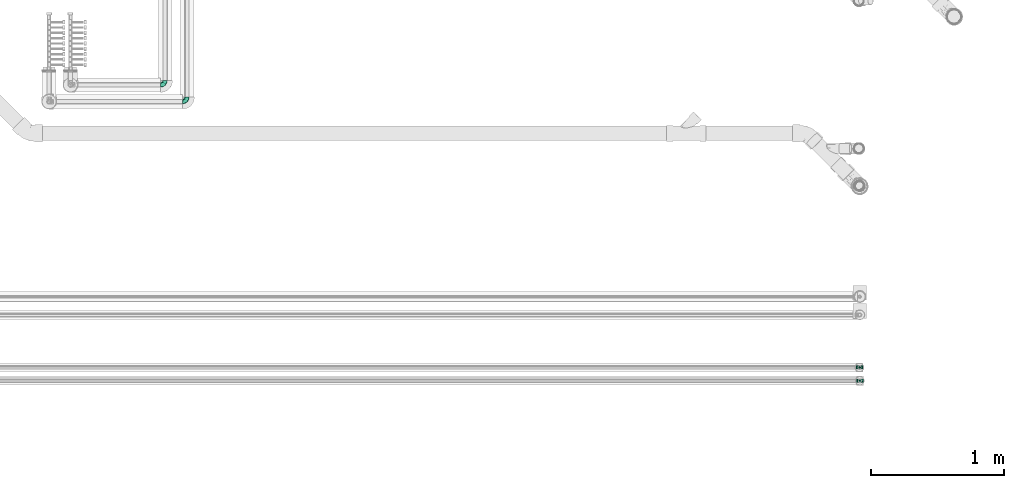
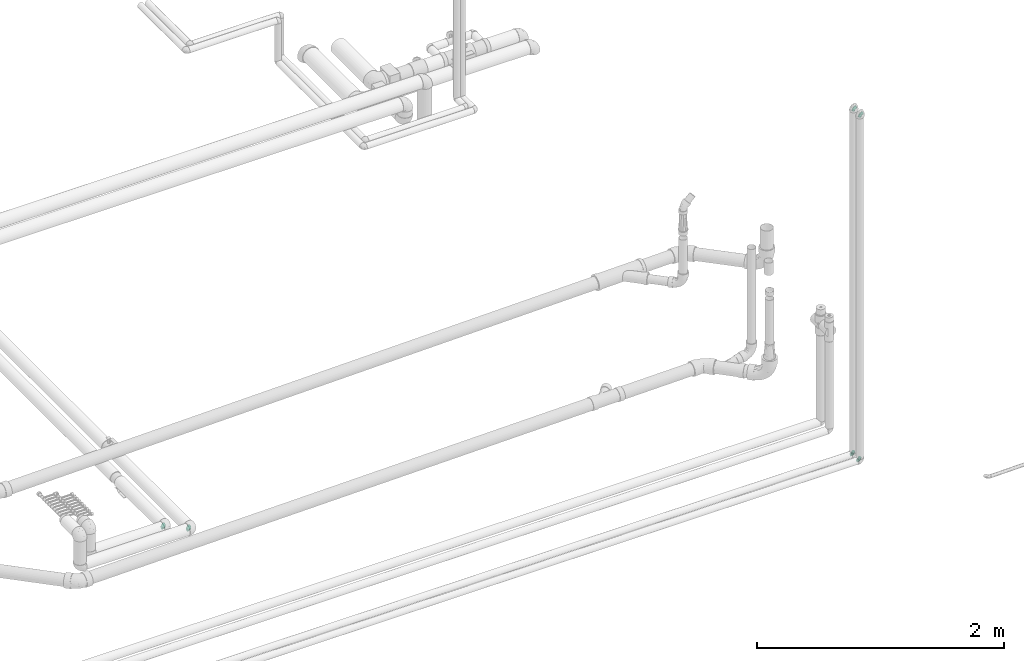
# One storey, part 45 of 83: 6 flow fittings.
"""IFC2X3 building model written with IfcOpenShell, lengths in millimetres."""

import ifcopenshell
import ifcopenshell.guid

model = None  # the IFC model being written
_history = None  # IfcOwnerHistory: only IFC2X3 demands one
_inside = {}  # id of a spatial element -> (the spatial element, [elements in it])
_under = {}  # id of a project, library or spatial element -> (it, [spatial elements below it])
_declared = {}  # id of a project -> (the project, [libraries it declares])
_typed = {}  # id of a type object -> (the type object, [elements of that type])
_made_of = {}  # id of a material, layer set ... -> (it, [elements and type objects made of it])


def new_model(schema):
    """Start an empty IFC model of exactly this schema.

    Asked for "IFC4X3", IfcOpenShell would pick the latest addendum, in which some entities
    have other attributes; the version numbers below select the first issue.
    IFC2X3 requires an IfcOwnerHistory on every rooted entity: one is made here for all.
    """
    global model, _history
    if schema == "IFC4X3":
        model = ifcopenshell.file(schema_version=(4, 3, 0, 0))
    else:
        model = ifcopenshell.file(schema=schema)
    _inside.clear()
    _under.clear()
    _declared.clear()
    _typed.clear()
    _made_of.clear()
    _history = None
    if model.schema == "IFC2X3":
        org = make("IfcOrganization", Name="unknown")
        user = make(
            "IfcPersonAndOrganization",
            ThePerson=make("IfcPerson", FamilyName="unknown"),
            TheOrganization=org,
        )
        app = make(
            "IfcApplication",
            ApplicationDeveloper=org,
            Version="unknown",
            ApplicationFullName="unknown",
            ApplicationIdentifier="unknown",
        )
        _history = make(
            "IfcOwnerHistory",
            OwningUser=user,
            OwningApplication=app,
            ChangeAction="ADDED",
            CreationDate=0,
        )
    return model


def make(cls, **values):
    """One entity of the class cls with the attributes given. An attribute that is None is left unset."""
    return model.create_entity(
        cls, **{name: value for name, value in values.items() if value is not None}
    )


def entity(cls, *values):
    """Any entity or typed value of the class cls, its attributes in the order of the schema. None: left unset."""
    e = model.create_entity(cls)
    for i, value in enumerate(values):
        if value is not None:
            e[i] = value
    return e


def rooted(cls, **values):
    """An entity with a GlobalId (a new one), such as an element, a storey or a relation."""
    return make(cls, GlobalId=ifcopenshell.guid.new(), OwnerHistory=_history, **values)


def si_unit(unit_type, name, prefix=None):
    """IfcSIUnit, for example si_unit("LENGTHUNIT", "METRE", prefix="MILLI")."""
    return make("IfcSIUnit", UnitType=unit_type, Prefix=prefix, Name=name)


def converted_unit(unit_type, name, factor, base, dimensions=None, offset=None):
    """IfcConversionBasedUnit, such as the inch: factor (a typed value) times the base unit."""
    return make(
        "IfcConversionBasedUnit"
        if offset is None
        else "IfcConversionBasedUnitWithOffset",
        ConversionOffset=offset,
        Dimensions=None
        if dimensions is None
        else entity("IfcDimensionalExponents", *dimensions),
        UnitType=unit_type,
        Name=name,
        ConversionFactor=make(
            "IfcMeasureWithUnit", ValueComponent=factor, UnitComponent=base
        ),
    )


def derived_unit(unit_type, elements):
    """IfcDerivedUnit: a product of units, each with its exponent."""
    return make(
        "IfcDerivedUnit",
        Elements=[
            make("IfcDerivedUnitElement", Unit=unit, Exponent=power)
            for unit, power in elements
        ],
        UnitType=unit_type,
    )


def assignment(units):
    """IfcUnitAssignment: the units of a project."""
    return None if units is None else make("IfcUnitAssignment", Units=units)


def point(xyz):
    """IfcCartesianPoint."""
    return None if xyz is None else make("IfcCartesianPoint", Coordinates=xyz)


def direction(xyz):
    """IfcDirection."""
    return None if xyz is None else make("IfcDirection", DirectionRatios=xyz)


def frame(location, z_axis=None, x_axis=None):
    """IfcAxis2Placement3D, a coordinate frame: its origin and axes. An axis left out is left unset."""
    return make(
        "IfcAxis2Placement3D",
        Location=point(location),
        Axis=direction(z_axis),
        RefDirection=direction(x_axis),
    )


def origin_with_axes():
    """The frame at (0, 0, 0) with the z axis (0, 0, 1) and the x axis (1, 0, 0) written out."""
    return frame((0.0, 0.0, 0.0), z_axis=(0.0, 0.0, 1.0), x_axis=(1.0, 0.0, 0.0))


def place(relative_to, where):
    """IfcLocalPlacement: puts the frame where relative to a parent placement (None: the world)."""
    return make(
        "IfcLocalPlacement", PlacementRelTo=relative_to, RelativePlacement=where
    )


def context(
    kind, dimensions, precision=None, world=None, true_north=None, identifier=None
):
    """IfcGeometricRepresentationContext, for example the 3D "Model" context."""
    return make(
        "IfcGeometricRepresentationContext",
        ContextIdentifier=identifier,
        ContextType=kind,
        CoordinateSpaceDimension=dimensions,
        Precision=precision,
        WorldCoordinateSystem=world,
        TrueNorth=true_north,
    )


def subcontext(parent, identifier, kind, view, scale=None):
    """IfcGeometricRepresentationSubContext, for example "Body" below "Model"."""
    return make(
        "IfcGeometricRepresentationSubContext",
        ContextIdentifier=identifier,
        ContextType=kind,
        ParentContext=parent,
        TargetScale=scale,
        TargetView=view,
    )


def project(units=None, contexts=None):
    """IfcProject with its units and contexts."""
    return rooted(
        "IfcProject",
        Name="project",
        RepresentationContexts=contexts,
        UnitsInContext=assignment(units),
    )


def spatial(cls, under=None, at=None, **own):
    """A site, building, storey or space (cls), placed at a placement, below another one or the project."""
    s = rooted(cls, ObjectPlacement=at, **own)
    if under is not None:
        _under.setdefault(under.id(), (under, []))[1].append(s)
    return s


def faces_of(points, faces, orient=None, outer=None):
    """IfcFace entities. A face is a list of loops; a loop is a list of indices into points, from 0.

    orient and outer hold one flag for each loop. By default every Orientation is true, the
    first loop of a face is its IfcFaceOuterBound and the others are IfcFaceBound.
    """
    made = []
    for i, loops in enumerate(faces):
        bounds = []
        for j, loop in enumerate(loops):
            is_outer = j == 0 if outer is None else outer[i][j]
            bounds.append(
                make(
                    "IfcFaceOuterBound" if is_outer else "IfcFaceBound",
                    Bound=make("IfcPolyLoop", Polygon=[points[k] for k in loop]),
                    Orientation=True if orient is None else orient[i][j],
                )
            )
        made.append(make("IfcFace", Bounds=bounds))
    return made


def open_shell(faces, orient=None, outer=None):
    """The faces of one IfcOpenShell. surface_model builds it on its shared points."""
    return ("IfcOpenShell", faces, orient, outer)


def surface_model(cls, points, shells):
    """IfcFaceBasedSurfaceModel or IfcShellBasedSurfaceModel (cls): surfaces that need not close."""
    shared = [point(p) for p in points]
    made = [make(c, CfsFaces=faces_of(shared, fs, o, b)) for c, fs, o, b in shells]
    if cls == "IfcFaceBasedSurfaceModel":
        return make(cls, FbsmFaces=made)
    return make(cls, SbsmBoundary=made)


def shape(context_of_items, identifier, shape_type, items):
    """IfcShapeRepresentation: the items that make up one representation, for example the "Body"."""
    return make(
        "IfcShapeRepresentation",
        ContextOfItems=context_of_items,
        RepresentationIdentifier=identifier,
        RepresentationType=shape_type,
        Items=items,
    )


def source(mapping_origin, context_of_items, identifier, shape_type, items):
    """IfcRepresentationMap: a shape defined once, which mapped items show again and again."""
    return make(
        "IfcRepresentationMap",
        MappingOrigin=mapping_origin,
        MappedRepresentation=shape(context_of_items, identifier, shape_type, items),
    )


def transform(
    local_origin,
    x_axis=None,
    y_axis=None,
    z_axis=None,
    scale=None,
    scale2=None,
    scale3=None,
    uniform=True,
):
    """IfcCartesianTransformationOperator3D, or its non-uniform kind. x_axis, y_axis, z_axis: its Axis1, 2, 3."""
    if uniform:
        return make(
            "IfcCartesianTransformationOperator3D",
            Axis1=direction(x_axis),
            Axis2=direction(y_axis),
            LocalOrigin=point(local_origin),
            Scale=scale,
            Axis3=direction(z_axis),
        )
    return make(
        "IfcCartesianTransformationOperator3DnonUniform",
        Axis1=direction(x_axis),
        Axis2=direction(y_axis),
        LocalOrigin=point(local_origin),
        Scale=scale,
        Axis3=direction(z_axis),
        Scale2=scale2,
        Scale3=scale3,
    )


def mapped(mapping_source, mapping_target):
    """IfcMappedItem: shows the shape of a source again, moved by a transform."""
    return make(
        "IfcMappedItem", MappingSource=mapping_source, MappingTarget=mapping_target
    )


def made_of(thing, what):
    """Note that an element or type object is made of a material, layer set ...; save() writes the relation."""
    if what is not None:
        _made_of.setdefault(what.id(), (what, []))[1].append(thing)
    return thing


def type_object(cls, material=None, **own):
    """A type object (cls), such as IfcWallType, which elements share."""
    return made_of(rooted(cls, **own), material)


def element(
    cls,
    number,
    at=None,
    inside=None,
    cuts=None,
    type_object=None,
    material=None,
    context=None,
    identifier="Body",
    shape_type=None,
    held_by="IfcProductDefinitionShape",
    body=None,
    shapes=None,
    **own,
):
    """One element of the class cls, such as IfcWall. Its Tag is "e" and its number.

    at: its placement. inside: the storey or other place that contains it. cuts: it is an
    opening in that element (IfcRelVoidsElement). A single representation is given by context,
    identifier, shape_type and body (its items); several are given by shapes. held_by: the class
    of the entity that holds the representations. save() writes the other relations.
    """
    e = rooted(cls, Tag="e%d" % number, ObjectPlacement=at, **own)
    if body is not None:
        shapes = [shape(context, identifier, shape_type, body)]
    if shapes is not None:
        e.Representation = make(held_by, Representations=shapes)
    if inside is not None:
        _inside.setdefault(inside.id(), (inside, []))[1].append(e)
    if cuts is not None:
        rooted(
            "IfcRelVoidsElement", RelatingBuildingElement=cuts, RelatedOpeningElement=e
        )
    if type_object is not None:
        _typed.setdefault(type_object.id(), (type_object, []))[1].append(e)
    return made_of(e, material)


def aggregate(whole, parts):
    """IfcRelAggregates: a whole, such as a stair, and the parts it consists of."""
    return rooted("IfcRelAggregates", RelatingObject=whole, RelatedObjects=parts)


def save(model, path):
    """Write the relations noted so far, then the file.

    IfcRelAggregates (storeys below a building ...), IfcRelContainedInSpatialStructure (elements
    in a storey), IfcRelDefinesByType, IfcRelAssociatesMaterial and IfcRelDeclares: one each for
    every whole, place, type object, material and project.
    """
    for whole, parts in _under.values():
        aggregate(whole, parts)
    for where, things in _inside.values():
        rooted(
            "IfcRelContainedInSpatialStructure",
            RelatedElements=things,
            RelatingStructure=where,
        )
    for kind, things in _typed.values():
        rooted("IfcRelDefinesByType", RelatedObjects=things, RelatingType=kind)
    for what, things in _made_of.values():
        rooted("IfcRelAssociatesMaterial", RelatedObjects=things, RelatingMaterial=what)
    for by, libraries in _declared.values():
        rooted("IfcRelDeclares", RelatingContext=by, RelatedDefinitions=libraries)
    model.write(path)


model = new_model("IFC2X3")

# Units and contexts
model_context = context("Model", 3, precision=0.01, world=frame((0.0, 4.29681676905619e-09, 0.0)), true_north=direction((4.01073788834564e-13, 1.0)))
plan_context = context("Plan", 3, precision=0.01, world=frame((0.0, 4.29681676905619e-09, 0.0)), true_north=direction((4.01073788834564e-13, 1.0)))
body_context = subcontext(model_context, "Body", "Model", "MODEL_VIEW")
ifc_project = project(units=[converted_unit("PLANEANGLEUNIT", "DEGREE", entity("IfcPositiveLengthMeasure", 0.0174532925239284), si_unit("PLANEANGLEUNIT", "RADIAN"), dimensions=[0, 0, 0, 0, 0, 0, 0]), si_unit("AREAUNIT", "SQUARE_METRE"), si_unit("LENGTHUNIT", "METRE", prefix="MILLI"), si_unit("MASSUNIT", "GRAM", prefix="KILO"), si_unit("POWERUNIT", "WATT"), si_unit("PRESSUREUNIT", "PASCAL"), si_unit("FORCEUNIT", "NEWTON", prefix="KILO"), si_unit("ELECTRICVOLTAGEUNIT", "VOLT"), si_unit("ELECTRICCURRENTUNIT", "AMPERE"), si_unit("THERMODYNAMICTEMPERATUREUNIT", "DEGREE_CELSIUS"), si_unit("TIMEUNIT", "SECOND"), si_unit("VOLUMEUNIT", "CUBIC_METRE"), derived_unit("LINEARVELOCITYUNIT", [(si_unit("LENGTHUNIT", "METRE"), 1), (si_unit("TIMEUNIT", "SECOND"), -1)]), derived_unit("VOLUMETRICFLOWRATEUNIT", [(si_unit("VOLUMEUNIT", "CUBIC_METRE"), 1), (si_unit("TIMEUNIT", "SECOND"), -1)]), derived_unit("THERMALTRANSMITTANCEUNIT", [(si_unit("POWERUNIT", "WATT"), 1), (si_unit("THERMODYNAMICTEMPERATUREUNIT", "KELVIN"), -1), (si_unit("AREAUNIT", "SQUARE_METRE"), -1)]), derived_unit("SOUNDPRESSUREUNIT", [(si_unit("PRESSUREUNIT", "PASCAL"), 1)])], contexts=[model_context, plan_context])

# Site, building, storey
site_placement = place(None, frame((0.0, -4.29681676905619e-09, 0.0), z_axis=(0.0, 0.0, 1.0), x_axis=(1.0, 0.0, 0.0)))
site = spatial("IfcSite", under=ifc_project, at=site_placement, Name="ENGM", CompositionType="ELEMENT")
building_placement = place(site_placement, frame((0.0, 4.29681676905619e-09, 0.0), z_axis=(0.0, 0.0, 1.0), x_axis=(1.0, 0.0, 0.0)))
building = spatial("IfcBuilding", under=site, at=building_placement, Name="TI", CompositionType="ELEMENT")
storey_placement = place(building_placement, frame((0.0, 0.0, 204000.0), z_axis=(0.0, 0.0, 1.0), x_axis=(1.0, 0.0, 0.0)))
storey = spatial("IfcBuildingStorey", under=building, at=storey_placement, Name="Nivå D", CompositionType="ELEMENT", Elevation=204000.0)

# Flow fittings
pipe_fitting_type = type_object("IfcPipeFittingType", Name="magi_pipe_fe_elbow_short_001", PredefinedType="BEND")
shared_shape_1 = source(origin_with_axes(), body_context, "Body", "SurfaceModel", [
    surface_model("IfcShellBasedSurfaceModel", [(-33.8, 4.37404, -16.32415), (-33.8, 0.0, -16.9), (-33.8, 11.9501, -11.9501), (-33.8, 8.45, -14.63583), (-33.8, 16.32415, -4.37404), (-33.8, 14.63583, -8.45), (-33.8, -14.63583, -8.45), (-33.8, -16.32415, -4.37404), (-33.8, -8.45, 14.63583), (-33.8, -11.9501, -11.9501), (-33.8, -8.45, -14.63583), (-33.8, -4.37404, -16.32415), (-33.8, -16.9, 0.0), (-33.8, -16.32415, 4.37404), (-33.8, 11.9501, 11.9501), (-33.8, 14.63583, 8.45), (-33.8, 16.32415, 4.37404), (-33.8, 4.37404, 16.32415), (-33.8, 8.45, 14.63583), (-33.8, -14.63583, 8.45), (-33.8, -11.9501, 11.9501), (-33.8, -4.37404, 16.32415), (-33.8, 0.0, 16.9), (-33.8, 16.9, 0.0), (-11.9501, 33.8, -11.9501), (0.0, 33.8, -16.9), (-4.37404, 33.8, -16.32415), (-8.45, 33.8, -14.63583), (-14.63583, 33.8, -8.45), (-16.32415, 33.8, -4.37404), (14.63583, 33.8, -8.45), (8.45, 33.8, 14.63583), (16.32415, 33.8, -4.37404), (8.45, 33.8, -14.63583), (11.9501, 33.8, -11.9501), (4.37404, 33.8, -16.32415), (16.32415, 33.8, 4.37404), (16.9, 33.8, 0.0), (-11.9501, 33.8, 11.9501), (-16.32415, 33.8, 4.37404), (-14.63583, 33.8, 8.45), (-8.45, 33.8, 14.63583), (-4.37404, 33.8, 16.32415), (11.9501, 33.8, 11.9501), (14.63583, 33.8, 8.45), (0.0, 33.8, 16.9), (4.37404, 33.8, 16.32415), (-16.9, 33.8, 0.0), (-24.79389, -13.12945, 9.48721), (-22.19287, -9.75018, 12.59315), (-24.09897, -14.97035, 0.0), (-14.93934, -10.76256, 8.5297), (-22.46095, -14.75051, 5.27077), (14.75051, 22.46094, 5.27077), (11.9251, 13.23888, 4.33236), (13.04069, 14.39795, 0.0), (7.71387, 13.68847, 11.55891), (9.75018, 22.19287, 12.59315), (4.10169, 13.0571, 14.04018), (-24.84007, -6.39063, 15.2048), (-25.81779, -2.23879, 16.61097), (-23.66549, 2.59054, 16.87119), (-26.50418, 14.06512, 11.08152), (-24.21253, 17.66365, 7.72657), (-29.58514, 15.86957, 7.00283), (-6.17382, -7.5455, 0.0), (-13.23888, -11.9251, 4.33236), (-14.39795, -13.04069, 0.0), (-17.81434, 18.87373, 11.97104), (-6.30846, 29.15138, 15.82987), (-2.31622, 25.28002, 16.85849), (-29.23923, 10.23435, 13.77053), (-1.45439, -2.85688, 7.61475), (-0.28326, 0.34872, 10.09509), (-5.74484, -4.04709, 10.4122), (-4.41137, 11.31918, 16.59407), (-8.39727, 3.10034, 15.7812), (-1.72649, 9.1306, 15.53089), (-17.39909, 24.75344, 7.64977), (-26.19233, 20.0512, 0.0), (-28.14518, 17.29657, 4.25857), (-26.05147, 6.6281, 15.96447), (-5.87354, 16.61944, 16.86968), (-12.51807, 12.51807, 16.48937), (-10.06312, 7.38516, 16.81295), (-3.01882, 3.01882, 13.81718), (-13.0571, -4.10169, 14.04018), (-16.82553, -0.15166, 16.38038), (10.76256, 14.93934, 8.5297), (13.12945, 24.79389, 9.48721), (6.39063, 24.84007, 15.2048), (2.23879, 25.81779, 16.61097), (-13.68847, -7.71387, 11.55891), (14.97035, 24.09897, 0.0), (-7.30894, 22.89991, 16.09489), (-10.67958, 26.17414, 14.008), (-12.78295, 18.26924, 15.06066), (-13.88562, 22.45231, 12.93244), (-18.04944, 15.16501, 14.04434), (-23.11658, 20.08178, 4.02986), (-21.84989, 21.84989, 0.0), (-18.55817, 25.48277, 3.93065), (-13.95142, 26.94732, 11.03289), (-18.57098, 7.23906, 16.59756), (-16.58335, 4.14122, 16.89279), (-17.96666, 11.46709, 15.63151), (-9.84453, 17.54304, 16.18938), (0.15166, 16.82553, 16.38038), (-23.27207, 11.47201, 14.23154), (3.84842, 5.86994, 10.70473), (-8.0212, -7.54413, 7.93275), (1.00345, -2.19508, 4.57414), (5.13203, 3.01004, 5.90201), (5.24161, 1.7543, 2.53265), (8.70457, 7.04947, 3.99182), (-20.0512, 26.19233, 0.0), (8.4852, 8.76699, 7.09296), (-4.55488, -6.72064, 4.90681), (2.05031, -2.05031, 0.0), (7.5455, 6.17382, 0.0), (-26.75399, 2.1369, -16.845), (-14.61995, 24.73803, -11.27736), (-28.45274, -13.45335, -9.81895), (-26.00469, 6.63555, -15.96645), (-23.06726, 20.04573, -4.26202), (-13.80647, -4.26506, -14.17873), (-14.67501, -0.21081, -16.07388), (-6.7902, -0.2828, -13.8478), (-24.53586, 11.08096, -14.13417), (-26.72048, 14.00837, -11.05776), (10.0967, 24.44989, -12.75976), (5.83237, 21.40218, -15.03047), (6.66249, 28.54238, -15.38093), (-20.38182, 15.48705, -12.74596), (12.53268, 21.23441, -9.15363), (12.54494, 15.67504, -5.54878), (9.7522, 12.89279, -8.66343), (-15.65186, 19.64213, -13.01327), (-12.03528, 20.66498, -14.67665), (-15.61907, 15.61906, -14.83879), (-25.56551, -15.26206, 0.0), (-24.65452, -15.12934, -5.50955), (13.45335, 28.45274, -9.81895), (15.12934, 24.65452, -5.50955), (-7.35442, -8.31014, -5.65563), (-15.67504, -12.54494, -5.54878), (-24.44989, -10.0967, -12.75976), (0.16522, 0.41303, -9.71728), (-5.70658, -5.33066, -8.89288), (-5.13869, -2.37198, -11.53565), (-21.23441, -12.53268, -9.15363), (0.71146, 7.93863, -14.09382), (0.21081, 14.67501, -16.07388), (3.49291, 14.42772, -14.76381), (-24.89911, -2.13088, -16.591), (-28.54238, -6.66249, -15.38093), (-18.44386, -7.71663, -13.26957), (2.13088, 24.89911, -16.591), (-28.64342, 17.44413, -2.89318), (1.70017, -1.28722, -5.09504), (-16.57067, 26.81947, -7.36596), (-17.69055, 27.4263, -3.76405), (-12.89279, -9.7522, -8.66343), (-5.96611, 5.96611, -15.95814), (-20.53709, 20.09345, -8.28985), (-2.1369, 26.75399, -16.845), (-6.89872, 24.58781, -16.02578), (-10.60739, 26.53157, -13.98044), (-21.40218, -5.83237, -15.03047), (2.93192, 5.89627, -11.55917), (6.89393, 12.61842, -11.82233), (5.58056, 5.95325, -8.79455), (-3.99512, 18.61798, -16.89635), (8.31014, 7.35442, -5.65563), (-9.1383, 9.86148, -16.89041), (-9.99983, 16.02119, -16.39699), (-16.68576, 9.78031, -16.34199), (-27.01915, 16.61158, -7.12979), (15.26206, 25.56551, 0.0), (-18.61798, 3.99512, -16.89635), (-19.37495, 27.82495, 0.0), (-12.61842, -6.89393, -11.82233), (-18.84705, 19.14018, -10.96545)], [open_shell([[[0, 1, 2]], [[3, 0, 2]], [[4, 5, 2]], [[6, 2, 1]], [[2, 7, 8]], [[9, 6, 10]], [[1, 11, 10]], [[10, 6, 1]], [[2, 6, 7]], [[12, 13, 7]], [[4, 2, 14]], [[4, 15, 16]], [[4, 14, 15]], [[17, 18, 14]], [[14, 2, 8]], [[17, 14, 8]], [[19, 20, 13]], [[20, 7, 13]], [[21, 22, 8]], [[20, 8, 7]], [[8, 22, 17]], [[4, 16, 23]], [[24, 25, 26]], [[24, 26, 27]], [[24, 28, 29]], [[25, 24, 30]], [[31, 32, 24]], [[33, 30, 34]], [[33, 35, 25]], [[25, 30, 33]], [[32, 30, 24]], [[32, 36, 37]], [[38, 24, 29]], [[39, 40, 29]], [[40, 38, 29]], [[38, 41, 42]], [[38, 31, 24]], [[31, 38, 42]], [[36, 43, 44]], [[36, 32, 43]], [[31, 45, 46]], [[32, 31, 43]], [[42, 45, 31]], [[39, 29, 47]], [[20, 48, 49]], [[13, 12, 50]], [[51, 48, 52]], [[53, 54, 55]], [[48, 20, 19]], [[13, 52, 19]], [[56, 57, 58]], [[49, 8, 20]], [[49, 59, 8]], [[22, 60, 61]], [[62, 63, 64]], [[65, 66, 67]], [[57, 43, 31]], [[62, 68, 63]], [[42, 69, 70]], [[18, 71, 14]], [[21, 60, 22]], [[72, 73, 74]], [[75, 76, 77]], [[14, 62, 15]], [[40, 39, 78]], [[79, 23, 80]], [[64, 16, 15]], [[22, 61, 17]], [[17, 81, 18]], [[82, 83, 84]], [[74, 85, 86]], [[59, 86, 87]], [[88, 89, 57]], [[90, 31, 46]], [[44, 53, 36]], [[46, 45, 91]], [[54, 53, 88]], [[44, 89, 53]], [[92, 86, 49]], [[89, 44, 43]], [[8, 59, 21]], [[53, 55, 93]], [[93, 36, 53]], [[66, 52, 67]], [[94, 82, 70]], [[95, 96, 94]], [[97, 98, 96]], [[79, 99, 100]], [[41, 38, 95]], [[101, 100, 99]], [[68, 78, 63]], [[42, 41, 69]], [[23, 16, 80]], [[95, 94, 69]], [[78, 101, 99]], [[38, 102, 95]], [[70, 45, 42]], [[97, 95, 102]], [[13, 50, 52]], [[90, 57, 31]], [[57, 90, 58]], [[81, 17, 61]], [[103, 104, 84]], [[105, 81, 103]], [[38, 40, 102]], [[106, 96, 83]], [[94, 106, 82]], [[91, 70, 107]], [[71, 62, 14]], [[62, 108, 98]], [[86, 59, 49]], [[67, 52, 50]], [[60, 59, 87]], [[92, 49, 51]], [[86, 85, 76]], [[91, 90, 46]], [[37, 36, 93]], [[107, 77, 58]], [[107, 58, 90]], [[58, 85, 109]], [[110, 74, 92]], [[72, 74, 110]], [[66, 51, 52]], [[72, 111, 112]], [[113, 114, 112]], [[56, 88, 57]], [[52, 48, 19]], [[49, 48, 51]], [[57, 89, 43]], [[53, 89, 88]], [[103, 81, 61]], [[71, 81, 108]], [[16, 64, 80]], [[63, 78, 99]], [[47, 115, 101]], [[101, 115, 100]], [[40, 78, 102]], [[68, 102, 78]], [[97, 96, 95]], [[105, 98, 108]], [[103, 84, 83]], [[107, 70, 82]], [[76, 84, 87]], [[82, 84, 75]], [[70, 91, 45]], [[90, 91, 107]], [[59, 60, 21]], [[61, 60, 87]], [[73, 85, 74]], [[109, 112, 116]], [[103, 61, 104]], [[105, 103, 83]], [[96, 105, 83]], [[81, 105, 108]], [[96, 98, 105]], [[62, 98, 68]], [[61, 87, 104]], [[87, 84, 104]], [[86, 76, 87]], [[77, 76, 85]], [[58, 77, 85]], [[75, 77, 107]], [[82, 75, 107]], [[76, 75, 84]], [[81, 71, 18]], [[62, 71, 108]], [[95, 69, 41]], [[70, 69, 94]], [[62, 64, 15]], [[80, 63, 99]], [[63, 80, 64]], [[80, 99, 79]], [[66, 65, 117]], [[110, 66, 117]], [[112, 114, 116]], [[118, 117, 65]], [[110, 92, 51]], [[112, 111, 113]], [[119, 55, 54]], [[74, 86, 92]], [[58, 109, 56]], [[116, 56, 109]], [[66, 110, 51]], [[72, 110, 117]], [[111, 72, 117]], [[73, 112, 109]], [[117, 118, 111]], [[113, 111, 118]], [[118, 119, 113]], [[114, 119, 54]], [[119, 114, 113]], [[116, 54, 88]], [[54, 116, 114]], [[116, 88, 56]], [[112, 73, 72]], [[85, 73, 109]], [[78, 39, 101]], [[47, 101, 39]], [[102, 68, 97]], [[97, 68, 98]], [[82, 106, 83]], [[94, 96, 106]], [[0, 120, 1]], [[28, 24, 121]], [[9, 122, 6]], [[3, 123, 0]], [[100, 124, 79]], [[125, 126, 127]], [[128, 2, 129]], [[130, 131, 132]], [[128, 129, 133]], [[134, 135, 136]], [[137, 138, 139]], [[128, 3, 2]], [[67, 140, 141]], [[134, 142, 143]], [[141, 7, 6]], [[144, 65, 145]], [[146, 9, 10]], [[147, 148, 149]], [[145, 141, 150]], [[151, 152, 153]], [[154, 11, 1]], [[10, 155, 146]], [[150, 146, 156]], [[155, 10, 11]], [[143, 135, 134]], [[35, 157, 25]], [[23, 79, 158]], [[148, 159, 144]], [[160, 161, 29]], [[145, 162, 144]], [[163, 152, 151]], [[29, 28, 160]], [[121, 164, 160]], [[33, 34, 130]], [[25, 165, 26]], [[26, 165, 166]], [[142, 34, 30]], [[24, 27, 167]], [[124, 161, 164]], [[157, 35, 132]], [[155, 154, 168]], [[123, 3, 128]], [[169, 170, 171]], [[172, 157, 152]], [[26, 166, 27]], [[132, 35, 33]], [[142, 130, 34]], [[168, 154, 126]], [[136, 135, 173]], [[133, 137, 139]], [[2, 5, 129]], [[170, 131, 130]], [[30, 32, 143]], [[172, 174, 175]], [[176, 123, 128]], [[158, 177, 4]], [[135, 55, 119]], [[167, 27, 166]], [[175, 166, 172]], [[137, 167, 138]], [[122, 141, 6]], [[140, 12, 7]], [[32, 37, 178]], [[170, 130, 134]], [[152, 157, 131]], [[165, 157, 172]], [[153, 170, 151]], [[152, 163, 174]], [[168, 125, 156]], [[122, 146, 150]], [[120, 154, 1]], [[179, 174, 126]], [[179, 126, 154]], [[126, 163, 127]], [[162, 145, 150]], [[140, 7, 141]], [[32, 178, 143]], [[55, 143, 178]], [[177, 129, 5]], [[128, 133, 139]], [[176, 128, 139]], [[120, 123, 179]], [[121, 160, 28]], [[161, 100, 180]], [[166, 175, 138]], [[121, 24, 167]], [[161, 47, 29]], [[79, 124, 158]], [[124, 164, 177]], [[161, 124, 100]], [[136, 171, 170]], [[127, 163, 151]], [[147, 171, 159]], [[148, 144, 162]], [[127, 151, 169]], [[127, 181, 125]], [[129, 177, 164]], [[5, 4, 177]], [[159, 65, 144]], [[67, 141, 145]], [[143, 55, 135]], [[135, 119, 173]], [[123, 120, 0]], [[154, 120, 179]], [[157, 165, 25]], [[166, 165, 172]], [[172, 152, 174]], [[176, 139, 175]], [[126, 174, 163]], [[176, 174, 179]], [[174, 176, 175]], [[123, 176, 179]], [[150, 181, 162]], [[127, 149, 181]], [[181, 148, 162]], [[159, 148, 147]], [[171, 136, 173]], [[170, 134, 136]], [[159, 171, 173]], [[171, 147, 169]], [[169, 147, 149]], [[151, 170, 169]], [[164, 182, 129]], [[182, 121, 137]], [[181, 149, 148]], [[169, 149, 127]], [[182, 137, 133]], [[167, 137, 121]], [[166, 138, 167]], [[175, 139, 138]], [[129, 182, 133]], [[121, 182, 164]], [[161, 160, 164]], [[47, 161, 180]], [[177, 158, 124]], [[23, 158, 4]], [[130, 132, 33]], [[157, 132, 131]], [[143, 142, 30]], [[130, 142, 134]], [[154, 155, 11]], [[146, 155, 168]], [[146, 122, 9]], [[141, 122, 150]], [[152, 131, 153]], [[159, 119, 118]], [[67, 145, 65]], [[170, 153, 131]], [[119, 159, 173]], [[159, 118, 65]], [[156, 125, 181]], [[126, 125, 168]], [[150, 156, 181]], [[168, 156, 146]]])]),
])
for number, where, z_axis, x_axis, name in (
    (1, (604084.1909, 693235.60884, 6040.4963), (1.29999999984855e-05, 7.999999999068e-06, 0.9999999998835), (0.9999999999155, 7.999999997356e-12, -1.29999999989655e-05), "magi_pipe_fe_elbow_short_001"),
    (2, (603920.1909, 693361.26264, 6040.51081000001), (-2.29999999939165e-05, 0.0, 0.9999999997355), (0.9999999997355, 0.0, 2.29999999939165e-05), "magi_pipe_fe_elbow_short_001"),
):
    element("IfcFlowFitting", number, at=place(storey_placement, frame(where, z_axis=z_axis, x_axis=x_axis)), inside=storey, type_object=pipe_fitting_type, Name=name, context=body_context, shape_type="MappedRepresentation", body=[
        mapped(shared_shape_1, transform((0.0, 0.0, 0.0), scale=1.0)),
    ])
shared_shape_2 = source(origin_with_axes(), body_context, "Body", "SurfaceModel", [
    surface_model("IfcShellBasedSurfaceModel", [(-26.8, 3.46818, -12.94341), (-26.8, 0.0, -13.4), (-26.8, 9.47523, -9.47523), (-26.8, 6.7, -11.60474), (-26.8, 12.94341, -3.46818), (-26.8, 11.60474, -6.7), (-26.8, -6.7, 11.60474), (-26.8, -12.94341, -3.46818), (-26.8, -9.47523, -9.47523), (-26.8, -6.7, -11.60474), (-26.8, -3.46818, -12.94341), (-26.8, -11.60474, -6.7), (-26.8, -13.4, 0.0), (-26.8, 9.47523, 9.47523), (-26.8, 12.94341, 3.46818), (-26.8, 11.60474, 6.7), (-26.8, 3.46818, 12.94341), (-26.8, 6.7, 11.60474), (-26.8, -11.60474, 6.7), (-26.8, -9.47523, 9.47523), (-26.8, -12.94341, 3.46818), (-26.8, -3.46818, 12.94341), (-26.8, 0.0, 13.4), (-26.8, 13.4, 0.0), (-9.47523, 26.8, -9.47523), (0.0, 26.8, -13.4), (-3.46818, 26.8, -12.94341), (-6.7, 26.8, -11.60474), (-11.60474, 26.8, -6.7), (-12.94341, 26.8, -3.46818), (12.94341, 26.8, -3.46818), (6.7, 26.8, 11.60474), (6.7, 26.8, -11.60474), (9.47523, 26.8, -9.47523), (3.46818, 26.8, -12.94341), (11.60474, 26.8, -6.7), (13.4, 26.8, 0.0), (-12.94341, 26.8, 3.46818), (-9.47523, 26.8, 9.47523), (-11.60474, 26.8, 6.7), (-6.7, 26.8, 11.60474), (-3.46818, 26.8, 12.94341), (12.94341, 26.8, 3.46818), (9.47523, 26.8, 9.47523), (11.60474, 26.8, 6.7), (3.46818, 26.8, 12.94341), (0.0, 26.8, 13.4), (-13.4, 26.8, 0.0), (-17.94383, -11.72186, 4.19396), (-19.61933, -10.40522, 7.51874), (-14.00394, -9.97131, 0.0), (-10.88146, -9.75217, 2.96415), (5.6402, 4.14256, 4.06277), (2.9355, 3.86758, 7.99817), (-0.16552, -0.70254, 6.90229), (-11.69279, -8.47867, 6.74741), (-3.60975, -5.23517, 4.12915), (-20.40197, -11.68565, 0.0), (6.07727, 10.7767, 9.16668), (7.71917, 17.5318, 9.98024), (3.23022, 10.34855, 11.14395), (-17.5318, -7.71917, 9.98024), (-19.6814, -5.06542, 12.05518), (-20.47091, -1.77513, 13.17083), (-18.76435, 2.05404, 13.37716), (-10.34855, -3.23022, 11.14395), (-13.34095, -0.12025, 12.98799), (-20.6562, 5.25542, 12.65822), (-21.01515, 11.15223, 8.78653), (-19.1981, 14.0055, 6.12639), (-23.45804, 12.58298, 5.55254), (-13.79572, 19.62699, 6.0655), (-4.65712, 13.17755, 13.37596), (-9.92557, 9.92557, 13.07441), (-7.97904, 5.85569, 13.33097), (-14.12498, 14.96497, 9.49183), (-23.18377, 8.11481, 10.91864), (-3.49778, 8.97497, 13.15743), (-6.65819, 2.45826, 12.5129), (-1.36893, 7.23965, 12.31444), (-22.3163, 13.71444, 3.37662), (-20.76788, 15.89859, 0.0), (-5.00198, 23.11411, 12.55149), (-1.83653, 20.04451, 13.36709), (5.06542, 19.6814, 12.05518), (-4.60225, -3.19632, 8.30444), (-2.39362, 2.39362, 10.95564), (1.77513, 20.47091, 13.17083), (10.40522, 19.61933, 7.51874), (8.47867, 11.69279, 6.74741), (11.72186, 17.94383, 4.19396), (-10.7767, -6.07727, 9.16668), (-14.71477, 20.20527, 3.11661), (-18.32912, 15.92283, 3.19527), (9.75217, 10.88146, 2.96415), (9.97131, 14.00394, 0.0), (11.68565, 20.40197, 0.0), (-17.32477, 17.32477, 0.0), (8.01422, 6.7, 0.0), (-11.0099, 17.80242, 10.25412), (-8.46783, 20.75346, 11.10693), (-11.06207, 21.36651, 8.74797), (-10.13559, 14.48567, 11.94159), (-5.79525, 18.15733, 12.76163), (-14.31139, 12.02432, 11.13575), (-6.7, -8.01422, 0.0), (-14.72492, 5.73985, 13.1602), (-13.14892, 3.28357, 13.39428), (-14.24576, 9.09225, 12.39421), (-7.80572, 13.90987, 12.83655), (0.12025, 13.34095, 12.98799), (-18.45241, 9.09615, 11.28418), (-1.02036, 0.84565, 9.15855), (-3.66591, -4.13183, 6.30134), (-3.02144, -4.33567, 0.0), (1.56761, -1.1228, 3.23127), (-15.89859, 20.76788, 0.0), (4.33567, 3.02144, 0.0), (0.65711, -0.65711, 0.0), (-21.21323, 1.69434, -13.35639), (-11.59215, 19.61477, -8.94181), (-19.9553, -12.05444, -4.41231), (-20.61911, 5.26132, -12.65979), (-18.29002, 15.89425, -3.37935), (-10.94714, -3.38176, -11.24231), (-11.6358, -0.16715, -12.74497), (-5.38395, -0.22423, -10.97991), (-19.45447, 8.78609, -11.20697), (-21.18665, 11.10723, -8.76769), (8.05635, 19.80434, -10.14754), (-16.16073, 12.27967, -10.10626), (-10.65974, -9.81032, -2.24682), (-4.63434, -6.26604, -3.21731), (-12.41035, 15.57424, -10.31822), (-9.54276, 16.38525, -11.6371), (-12.38435, 12.38435, -11.76567), (-1.18054, -2.52878, -5.66699), (1.17703, 2.36499, -8.51656), (4.94456, 3.94062, -5.27361), (-13.23013, 7.7548, -12.95755), (-18.92609, -10.30887, -7.4546), (-19.80434, -8.05635, -10.14754), (-5.46999, 19.49566, -12.70683), (12.05444, 19.9553, -4.41231), (-22.63124, -5.28269, -12.19553), (-11.57403, -7.91736, -7.4927), (-10.00514, -5.4662, -9.37392), (0.56412, 6.29454, -11.17498), (0.16715, 11.6358, -12.74497), (2.76952, 11.43973, -11.70622), (-22.71135, 13.83144, -2.294), (-13.13887, 21.26515, -5.84046), (-14.02683, 21.74629, -2.98452), (10.30887, 18.92609, -7.4546), (-4.73052, 4.73052, -12.6532), (-16.28385, 15.93209, -6.57302), (-1.69434, 21.21323, -13.35639), (-8.4106, 21.03687, -11.08508), (1.68957, 19.74249, -13.15499), (5.28269, 22.63124, -12.19553), (-19.74249, -1.68957, -13.15499), (-16.96978, -4.62448, -11.91765), (-3.16773, 14.76219, -13.39711), (-7.24575, 7.81916, -13.39239), (-7.92886, 12.7032, -13.00116), (-6.57993, -6.26304, -6.05124), (9.46363, 9.95483, -2.39006), (6.59847, 4.89531, -2.6225), (0.29079, -2.47661, -2.876), (-21.42347, 13.17132, -5.65321), (9.35918, 11.66841, -5.08525), (8.33374, 12.94014, -7.69724), (5.4662, 10.00514, -9.37392), (4.62448, 16.96978, -11.91765), (-3.89324, -2.60816, -8.35445), (5.97121, 7.49007, -7.29975), (-14.76219, 3.16773, -13.39711), (-15.36238, 22.06238, 0.0), (-11.66841, -9.35918, -5.08525), (3.63632, 1.19488, -3.35093), (-14.94382, 15.17624, -8.6945)], [open_shell([[[0, 1, 2]], [[3, 0, 2]], [[4, 5, 2]], [[1, 4, 2]], [[6, 1, 7]], [[8, 7, 9]], [[1, 10, 9]], [[11, 7, 8]], [[9, 7, 1]], [[12, 6, 7]], [[4, 1, 6]], [[13, 14, 4]], [[15, 14, 13]], [[16, 17, 13]], [[13, 4, 16]], [[4, 6, 16]], [[18, 19, 20]], [[19, 12, 20]], [[6, 21, 16]], [[19, 6, 12]], [[16, 21, 22]], [[23, 4, 14]], [[24, 25, 26]], [[24, 26, 27]], [[24, 28, 29]], [[24, 29, 25]], [[30, 25, 31]], [[32, 30, 33]], [[32, 34, 25]], [[33, 30, 35]], [[25, 30, 32]], [[30, 31, 36]], [[31, 25, 29]], [[29, 37, 38]], [[38, 37, 39]], [[38, 40, 41]], [[41, 29, 38]], [[41, 31, 29]], [[42, 43, 44]], [[42, 36, 43]], [[41, 45, 31]], [[36, 31, 43]], [[46, 45, 41]], [[37, 29, 47]], [[48, 49, 18]], [[48, 50, 51]], [[52, 53, 54]], [[55, 51, 56]], [[49, 19, 18]], [[57, 48, 20]], [[58, 59, 60]], [[61, 6, 19]], [[61, 62, 6]], [[22, 63, 64]], [[62, 65, 66]], [[59, 43, 31]], [[22, 21, 63]], [[67, 17, 16]], [[68, 69, 70]], [[39, 37, 71]], [[72, 73, 74]], [[69, 68, 75]], [[22, 64, 16]], [[17, 76, 13]], [[15, 13, 68]], [[77, 78, 79]], [[80, 81, 23]], [[41, 82, 83]], [[31, 84, 59]], [[85, 86, 65]], [[45, 46, 87]], [[88, 89, 90]], [[91, 65, 61]], [[46, 41, 83]], [[71, 92, 93]], [[90, 94, 95]], [[84, 31, 45]], [[88, 90, 44]], [[59, 84, 60]], [[42, 44, 90]], [[75, 71, 69]], [[6, 62, 21]], [[90, 96, 42]], [[97, 81, 93]], [[94, 98, 95]], [[92, 97, 93]], [[50, 48, 57]], [[70, 14, 15]], [[99, 100, 101]], [[38, 101, 100]], [[40, 38, 100]], [[102, 103, 100]], [[103, 72, 83]], [[82, 100, 103]], [[82, 41, 40]], [[99, 104, 102]], [[23, 14, 80]], [[67, 16, 64]], [[51, 50, 105]], [[48, 18, 20]], [[49, 55, 61]], [[44, 43, 88]], [[89, 52, 94]], [[106, 107, 74]], [[108, 67, 106]], [[38, 39, 101]], [[109, 102, 73]], [[103, 109, 72]], [[87, 83, 110]], [[76, 68, 13]], [[68, 111, 104]], [[65, 62, 61]], [[63, 62, 66]], [[91, 61, 55]], [[65, 86, 78]], [[87, 84, 45]], [[110, 79, 60]], [[110, 60, 84]], [[86, 112, 60]], [[55, 49, 48]], [[61, 19, 49]], [[43, 59, 88]], [[89, 88, 59]], [[106, 67, 64]], [[76, 67, 111]], [[53, 52, 89]], [[112, 86, 85]], [[56, 113, 55]], [[112, 54, 53]], [[58, 89, 59]], [[56, 51, 105]], [[114, 115, 56]], [[14, 70, 80]], [[69, 71, 93]], [[47, 116, 92]], [[92, 116, 97]], [[39, 71, 101]], [[75, 101, 71]], [[99, 102, 100]], [[108, 104, 111]], [[106, 74, 73]], [[110, 83, 72]], [[78, 74, 66]], [[72, 74, 77]], [[83, 87, 46]], [[84, 87, 110]], [[62, 63, 21]], [[64, 63, 66]], [[20, 12, 57]], [[96, 90, 95]], [[96, 36, 42]], [[115, 117, 52]], [[56, 105, 114]], [[55, 48, 51]], [[89, 94, 90]], [[52, 98, 94]], [[106, 64, 107]], [[108, 106, 73]], [[102, 108, 73]], [[67, 108, 111]], [[102, 104, 108]], [[68, 104, 75]], [[64, 66, 107]], [[66, 74, 107]], [[65, 78, 66]], [[79, 78, 86]], [[60, 79, 86]], [[77, 79, 110]], [[72, 77, 110]], [[78, 77, 74]], [[67, 76, 17]], [[68, 76, 111]], [[100, 82, 40]], [[83, 82, 103]], [[68, 70, 15]], [[80, 69, 93]], [[69, 80, 70]], [[80, 93, 81]], [[55, 85, 91]], [[85, 65, 91]], [[60, 53, 58]], [[53, 89, 58]], [[54, 112, 85]], [[60, 112, 53]], [[85, 113, 54]], [[113, 115, 54]], [[55, 113, 85]], [[115, 113, 56]], [[71, 37, 92]], [[115, 114, 118]], [[47, 92, 37]], [[101, 75, 99]], [[99, 75, 104]], [[72, 109, 73]], [[103, 102, 109]], [[54, 115, 52]], [[117, 115, 118]], [[117, 98, 52]], [[0, 119, 1]], [[28, 24, 120]], [[121, 57, 7]], [[3, 122, 0]], [[97, 123, 81]], [[124, 125, 126]], [[127, 2, 128]], [[33, 129, 32]], [[127, 128, 130]], [[131, 132, 105]], [[133, 134, 135]], [[127, 3, 2]], [[136, 137, 138]], [[139, 122, 127]], [[2, 5, 128]], [[11, 140, 121]], [[141, 140, 8]], [[26, 142, 27]], [[95, 143, 96]], [[144, 9, 10]], [[145, 141, 146]], [[30, 36, 96]], [[147, 148, 149]], [[140, 11, 8]], [[23, 81, 150]], [[130, 133, 135]], [[151, 152, 29]], [[153, 35, 143]], [[147, 154, 148]], [[29, 28, 151]], [[120, 155, 151]], [[33, 153, 129]], [[25, 156, 26]], [[26, 156, 142]], [[143, 35, 30]], [[24, 27, 157]], [[123, 152, 155]], [[158, 34, 159]], [[144, 160, 161]], [[122, 3, 127]], [[148, 162, 158]], [[157, 27, 142]], [[162, 163, 164]], [[159, 34, 32]], [[165, 136, 132]], [[35, 153, 33]], [[166, 98, 167]], [[160, 10, 1]], [[161, 160, 125]], [[95, 166, 143]], [[50, 131, 105]], [[121, 7, 11]], [[168, 114, 132]], [[150, 169, 4]], [[167, 98, 117]], [[34, 158, 25]], [[164, 142, 162]], [[133, 157, 134]], [[8, 9, 141]], [[165, 145, 146]], [[170, 171, 153]], [[129, 172, 173]], [[126, 137, 174]], [[175, 137, 172]], [[148, 158, 173]], [[156, 158, 162]], [[149, 172, 147]], [[148, 154, 163]], [[119, 160, 1]], [[176, 163, 125]], [[176, 125, 160]], [[125, 154, 126]], [[169, 128, 5]], [[127, 130, 135]], [[139, 127, 135]], [[119, 122, 176]], [[120, 151, 28]], [[152, 97, 177]], [[142, 164, 134]], [[120, 24, 157]], [[152, 47, 29]], [[81, 123, 150]], [[123, 155, 169]], [[152, 123, 97]], [[140, 178, 121]], [[121, 178, 131]], [[144, 141, 9]], [[146, 141, 161]], [[30, 96, 143]], [[170, 153, 143]], [[129, 153, 171]], [[159, 129, 173]], [[137, 147, 172]], [[126, 154, 147]], [[172, 171, 175]], [[174, 137, 136]], [[137, 126, 147]], [[126, 146, 124]], [[117, 118, 179]], [[179, 138, 167]], [[128, 169, 155]], [[5, 4, 169]], [[57, 121, 50]], [[57, 12, 7]], [[122, 119, 0]], [[160, 119, 176]], [[158, 156, 25]], [[142, 156, 162]], [[162, 148, 163]], [[139, 135, 164]], [[125, 163, 154]], [[139, 163, 176]], [[163, 139, 164]], [[122, 139, 176]], [[155, 180, 128]], [[180, 120, 133]], [[180, 133, 130]], [[157, 133, 120]], [[142, 134, 157]], [[164, 135, 134]], [[128, 180, 130]], [[120, 180, 155]], [[152, 151, 155]], [[47, 152, 177]], [[169, 150, 123]], [[23, 150, 4]], [[121, 131, 50]], [[178, 165, 132]], [[178, 132, 131]], [[168, 132, 136]], [[145, 165, 178]], [[174, 165, 146]], [[178, 140, 145]], [[141, 145, 140]], [[179, 136, 138]], [[170, 166, 167]], [[168, 179, 118]], [[170, 167, 138]], [[143, 166, 170]], [[95, 98, 166]], [[117, 179, 167]], [[136, 179, 168]], [[129, 159, 32]], [[158, 159, 173]], [[160, 144, 10]], [[141, 144, 161]], [[175, 170, 138]], [[129, 171, 172]], [[170, 175, 171]], [[137, 175, 138]], [[148, 173, 149]], [[172, 149, 173]], [[165, 174, 136]], [[126, 174, 146]], [[146, 161, 124]], [[125, 124, 161]], [[114, 168, 118]], [[114, 105, 132]]])]),
])
for number, where, z_axis, x_axis, name in (
    (3, (609131.9743, 691141.97914, 6220.0), (0.0, -1.0, 0.0), (1.0, 0.0, 0.0), "magi_pipe_fe_elbow_short_001"),
    (4, (609129.7743, 691241.97914, 6220.00010999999), (0.0, -1.0, 0.0), (1.0, 0.0, 0.0), "magi_pipe_fe_elbow_short_001"),
    (5, (609131.9743, 691141.97914, 9640.0), (0.0, 1.0, 0.0), (0.0, 0.0, 1.0), "magi_pipe_fe_elbow_short_001"),
    (6, (609129.7743, 691241.97914, 9640.0), (0.0, 1.0, 0.0), (0.0, 0.0, 1.0), "magi_pipe_fe_elbow_short_001"),
):
    element("IfcFlowFitting", number, at=place(storey_placement, frame(where, z_axis=z_axis, x_axis=x_axis)), inside=storey, type_object=pipe_fitting_type, Name=name, context=body_context, shape_type="MappedRepresentation", body=[
        mapped(shared_shape_2, transform((0.0, 0.0, 0.0), scale=1.0)),
    ])

save(model, "model.ifc")
